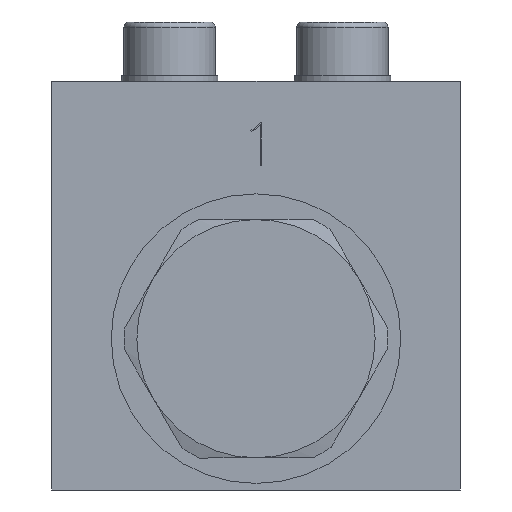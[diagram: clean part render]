
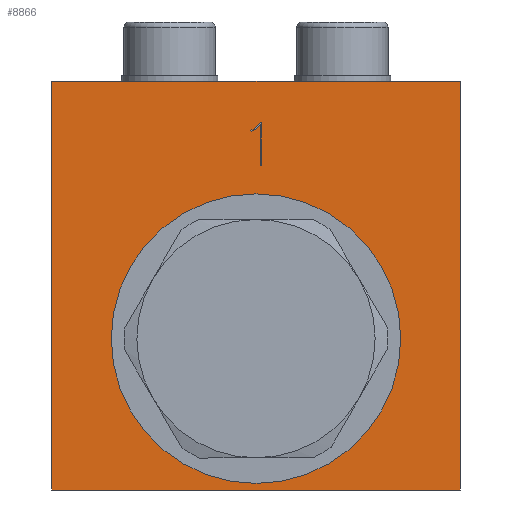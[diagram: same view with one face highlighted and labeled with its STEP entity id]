
A CAD part, left-side view. The second image highlights one B-rep face of the part: STEP entity #8866.
In plain terms, the highlighted planar face has unit normal (-1, 0, 0).
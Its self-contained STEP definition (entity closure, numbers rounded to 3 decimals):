
#142=LINE('',#12675,#586);
#146=LINE('',#12867,#590);
#147=LINE('',#12870,#591);
#148=LINE('',#12871,#592);
#586=VECTOR('',#10646,1000.);
#590=VECTOR('',#10656,1000.);
#591=VECTOR('',#10657,1000.);
#592=VECTOR('',#10658,1000.);
#1029=PLANE('',#9885);
#1567=B_SPLINE_CURVE_WITH_KNOTS('',1,(#12872,#12873),.UNSPECIFIED.,.F.,
 .F.,(2,2),(0.611,0.617),.UNSPECIFIED.);
#1568=B_SPLINE_CURVE_WITH_KNOTS('',1,(#12876,#12877),.UNSPECIFIED.,.F.,
 .F.,(2,2),(0.617,1.),.UNSPECIFIED.);
#1569=B_SPLINE_CURVE_WITH_KNOTS('',1,(#12879,#12880),.UNSPECIFIED.,.F.,
 .F.,(2,2),(0.,0.007),.UNSPECIFIED.);
#1570=B_SPLINE_CURVE_WITH_KNOTS('',1,(#12882,#12883),.UNSPECIFIED.,.F.,
 .F.,(2,2),(0.007,0.378),.UNSPECIFIED.);
#1571=B_SPLINE_CURVE_WITH_KNOTS('',1,(#12885,#12886),.UNSPECIFIED.,.F.,
 .F.,(2,2),(0.378,0.446),.UNSPECIFIED.);
#1572=B_SPLINE_CURVE_WITH_KNOTS('',1,(#12888,#12889),.UNSPECIFIED.,.F.,
 .F.,(2,2),(0.446,0.487),.UNSPECIFIED.);
#1573=B_SPLINE_CURVE_WITH_KNOTS('',1,(#12891,#12892),.UNSPECIFIED.,.F.,
 .F.,(2,2),(0.487,0.495),.UNSPECIFIED.);
#1574=B_SPLINE_CURVE_WITH_KNOTS('',1,(#12894,#12895),.UNSPECIFIED.,.F.,
 .F.,(2,2),(0.495,0.535),.UNSPECIFIED.);
#1575=B_SPLINE_CURVE_WITH_KNOTS('',1,(#12897,#12898),.UNSPECIFIED.,.F.,
 .F.,(2,2),(0.535,0.611),.UNSPECIFIED.);
#2376=ORIENTED_EDGE('',*,*,#5078,.T.);
#2377=ORIENTED_EDGE('',*,*,#5079,.F.);
#2378=ORIENTED_EDGE('',*,*,#5080,.F.);
#2379=ORIENTED_EDGE('',*,*,#5013,.T.);
#2380=ORIENTED_EDGE('',*,*,#5081,.T.);
#2381=ORIENTED_EDGE('',*,*,#5082,.T.);
#2382=ORIENTED_EDGE('',*,*,#5083,.T.);
#2383=ORIENTED_EDGE('',*,*,#5084,.T.);
#2384=ORIENTED_EDGE('',*,*,#5085,.T.);
#2385=ORIENTED_EDGE('',*,*,#5086,.T.);
#2386=ORIENTED_EDGE('',*,*,#5087,.T.);
#2387=ORIENTED_EDGE('',*,*,#5088,.T.);
#2388=ORIENTED_EDGE('',*,*,#5089,.T.);
#2389=ORIENTED_EDGE('',*,*,#5090,.T.);
#5013=EDGE_CURVE('',#6364,#6363,#142,.T.);
#5078=EDGE_CURVE('',#6428,#6428,#7260,.T.);
#5079=EDGE_CURVE('',#6429,#6430,#146,.T.);
#5080=EDGE_CURVE('',#6364,#6429,#147,.T.);
#5081=EDGE_CURVE('',#6363,#6430,#148,.T.);
#5082=EDGE_CURVE('',#6431,#6432,#1567,.T.);
#5083=EDGE_CURVE('',#6432,#6433,#1568,.T.);
#5084=EDGE_CURVE('',#6433,#6434,#1569,.T.);
#5085=EDGE_CURVE('',#6434,#6435,#1570,.T.);
#5086=EDGE_CURVE('',#6435,#6436,#1571,.T.);
#5087=EDGE_CURVE('',#6436,#6437,#1572,.T.);
#5088=EDGE_CURVE('',#6437,#6438,#1573,.T.);
#5089=EDGE_CURVE('',#6438,#6439,#1574,.T.);
#5090=EDGE_CURVE('',#6439,#6431,#1575,.T.);
#6363=VERTEX_POINT('',#12674);
#6364=VERTEX_POINT('',#12676);
#6428=VERTEX_POINT('',#12866);
#6429=VERTEX_POINT('',#12868);
#6430=VERTEX_POINT('',#12869);
#6431=VERTEX_POINT('',#12874);
#6432=VERTEX_POINT('',#12875);
#6433=VERTEX_POINT('',#12878);
#6434=VERTEX_POINT('',#12881);
#6435=VERTEX_POINT('',#12884);
#6436=VERTEX_POINT('',#12887);
#6437=VERTEX_POINT('',#12890);
#6438=VERTEX_POINT('',#12893);
#6439=VERTEX_POINT('',#12896);
#7260=CIRCLE('',#9886,13.487);
#7401=EDGE_LOOP('',(#2376));
#7402=EDGE_LOOP('',(#2377,#2378,#2379,#2380));
#7403=EDGE_LOOP('',(#2381,#2382,#2383,#2384,#2385,#2386,#2387,#2388,#2389));
#8103=FACE_BOUND('',#7401,.T.);
#8104=FACE_BOUND('',#7402,.T.);
#8105=FACE_BOUND('',#7403,.T.);
#8866=ADVANCED_FACE('',(#8103,#8104,#8105),#1029,.T.);
#9885=AXIS2_PLACEMENT_3D('',#12864,#10652,#10653);
#9886=AXIS2_PLACEMENT_3D('',#12865,#10654,#10655);
#10646=DIRECTION('',(0.,1.,0.));
#10652=DIRECTION('',(-1.,0.,0.));
#10653=DIRECTION('',(0.,-1.,0.));
#10654=DIRECTION('',(1.,0.,0.));
#10655=DIRECTION('',(0.,-1.,0.));
#10656=DIRECTION('',(0.,1.,0.));
#10657=DIRECTION('',(0.,0.,-1.));
#10658=DIRECTION('',(0.,0.,-1.));
#12674=CARTESIAN_POINT('',(-38.1,19.05,38.1));
#12675=CARTESIAN_POINT('',(-38.1,-19.05,38.1));
#12676=CARTESIAN_POINT('',(-38.1,-19.05,38.1));
#12864=CARTESIAN_POINT('',(-38.1,-19.05,38.1));
#12865=CARTESIAN_POINT('',(-38.1,0.,14.1));
#12866=CARTESIAN_POINT('',(-38.1,-13.487,14.1));
#12867=CARTESIAN_POINT('',(-38.1,-19.05,0.));
#12868=CARTESIAN_POINT('',(-38.1,-19.05,0.));
#12869=CARTESIAN_POINT('',(-38.1,19.05,0.));
#12870=CARTESIAN_POINT('',(-38.1,-19.05,38.1));
#12871=CARTESIAN_POINT('',(-38.1,19.05,38.1));
#12872=CARTESIAN_POINT('',(-38.1,-0.443,34.222));
#12873=CARTESIAN_POINT('',(-38.1,-0.503,34.222));
#12874=CARTESIAN_POINT('',(-38.1,-0.443,34.222));
#12875=CARTESIAN_POINT('',(-38.1,-0.503,34.222));
#12876=CARTESIAN_POINT('',(-38.1,-0.503,34.222));
#12877=CARTESIAN_POINT('',(-38.1,-0.503,30.222));
#12878=CARTESIAN_POINT('',(-38.1,-0.503,30.222));
#12879=CARTESIAN_POINT('',(-38.1,-0.503,30.222));
#12880=CARTESIAN_POINT('',(-38.1,-0.428,30.222));
#12881=CARTESIAN_POINT('',(-38.1,-0.428,30.222));
#12882=CARTESIAN_POINT('',(-38.1,-0.428,30.222));
#12883=CARTESIAN_POINT('',(-38.1,-0.428,34.095));
#12884=CARTESIAN_POINT('',(-38.1,-0.428,34.095));
#12885=CARTESIAN_POINT('',(-38.1,-0.428,34.095));
#12886=CARTESIAN_POINT('',(-38.1,0.083,33.607));
#12887=CARTESIAN_POINT('',(-38.1,0.083,33.607));
#12888=CARTESIAN_POINT('',(-38.1,0.083,33.607));
#12889=CARTESIAN_POINT('',(-38.1,0.458,33.412));
#12890=CARTESIAN_POINT('',(-38.1,0.458,33.412));
#12891=CARTESIAN_POINT('',(-38.1,0.458,33.412));
#12892=CARTESIAN_POINT('',(-38.1,0.503,33.487));
#12893=CARTESIAN_POINT('',(-38.1,0.503,33.487));
#12894=CARTESIAN_POINT('',(-38.1,0.503,33.487));
#12895=CARTESIAN_POINT('',(-38.1,0.135,33.675));
#12896=CARTESIAN_POINT('',(-38.1,0.135,33.675));
#12897=CARTESIAN_POINT('',(-38.1,0.135,33.675));
#12898=CARTESIAN_POINT('',(-38.1,-0.443,34.222));
